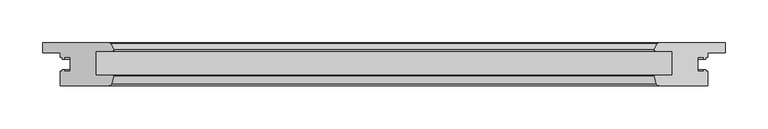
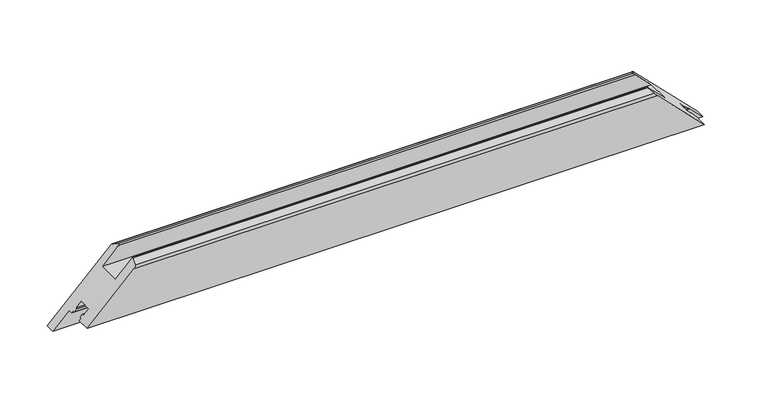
"""IFC4 building model written with IfcOpenShell, lengths in millimetres: proxy geometry, Weiku - Montante - Folha 02.2.01.017 : Weiku - Montante - Folha 02.2.01.017."""

import ifcopenshell
import ifcopenshell.guid

model = None  # the IFC model being written
_history = None  # IfcOwnerHistory: only IFC2X3 demands one
_inside = {}  # id of a spatial element -> (the spatial element, [elements in it])
_under = {}  # id of a project, library or spatial element -> (it, [spatial elements below it])
_declared = {}  # id of a project -> (the project, [libraries it declares])
_typed = {}  # id of a type object -> (the type object, [elements of that type])
_made_of = {}  # id of a material, layer set ... -> (it, [elements and type objects made of it])


def new_model(schema):
    """Start an empty IFC model of exactly this schema.

    Asked for "IFC4X3", IfcOpenShell would pick the latest addendum, in which some entities
    have other attributes; the version numbers below select the first issue.
    IFC2X3 requires an IfcOwnerHistory on every rooted entity: one is made here for all.
    """
    global model, _history
    if schema == "IFC4X3":
        model = ifcopenshell.file(schema_version=(4, 3, 0, 0))
    else:
        model = ifcopenshell.file(schema=schema)
    _inside.clear()
    _under.clear()
    _declared.clear()
    _typed.clear()
    _made_of.clear()
    _history = None
    if model.schema == "IFC2X3":
        org = make("IfcOrganization", Name="unknown")
        user = make(
            "IfcPersonAndOrganization",
            ThePerson=make("IfcPerson", FamilyName="unknown"),
            TheOrganization=org,
        )
        app = make(
            "IfcApplication",
            ApplicationDeveloper=org,
            Version="unknown",
            ApplicationFullName="unknown",
            ApplicationIdentifier="unknown",
        )
        _history = make(
            "IfcOwnerHistory",
            OwningUser=user,
            OwningApplication=app,
            ChangeAction="ADDED",
            CreationDate=0,
        )
    return model


def make(cls, **values):
    """One entity of the class cls with the attributes given. An attribute that is None is left unset."""
    return model.create_entity(
        cls, **{name: value for name, value in values.items() if value is not None}
    )


def rooted(cls, **values):
    """An entity with a GlobalId (a new one), such as an element, a storey or a relation."""
    return make(cls, GlobalId=ifcopenshell.guid.new(), OwnerHistory=_history, **values)


def si_unit(unit_type, name, prefix=None):
    """IfcSIUnit, for example si_unit("LENGTHUNIT", "METRE", prefix="MILLI")."""
    return make("IfcSIUnit", UnitType=unit_type, Prefix=prefix, Name=name)


def assignment(units):
    """IfcUnitAssignment: the units of a project."""
    return None if units is None else make("IfcUnitAssignment", Units=units)


def point(xyz):
    """IfcCartesianPoint."""
    return None if xyz is None else make("IfcCartesianPoint", Coordinates=xyz)


def direction(xyz):
    """IfcDirection."""
    return None if xyz is None else make("IfcDirection", DirectionRatios=xyz)


def frame(location, z_axis=None, x_axis=None):
    """IfcAxis2Placement3D, a coordinate frame: its origin and axes. An axis left out is left unset."""
    return make(
        "IfcAxis2Placement3D",
        Location=point(location),
        Axis=direction(z_axis),
        RefDirection=direction(x_axis),
    )


def origin():
    """The frame at (0, 0, 0) with its axes left unset."""
    return frame((0.0, 0.0, 0.0))


def place(relative_to, where):
    """IfcLocalPlacement: puts the frame where relative to a parent placement (None: the world)."""
    return make(
        "IfcLocalPlacement", PlacementRelTo=relative_to, RelativePlacement=where
    )


def context(
    kind, dimensions, precision=None, world=None, true_north=None, identifier=None
):
    """IfcGeometricRepresentationContext, for example the 3D "Model" context."""
    return make(
        "IfcGeometricRepresentationContext",
        ContextIdentifier=identifier,
        ContextType=kind,
        CoordinateSpaceDimension=dimensions,
        Precision=precision,
        WorldCoordinateSystem=world,
        TrueNorth=true_north,
    )


def project(units=None, contexts=None):
    """IfcProject with its units and contexts."""
    return rooted(
        "IfcProject",
        Name="project",
        RepresentationContexts=contexts,
        UnitsInContext=assignment(units),
    )


def spatial(cls, under=None, at=None, **own):
    """A site, building, storey or space (cls), placed at a placement, below another one or the project."""
    s = rooted(cls, ObjectPlacement=at, **own)
    if under is not None:
        _under.setdefault(under.id(), (under, []))[1].append(s)
    return s


def ellipse_curve(where, semi_axis1, semi_axis2):
    """IfcEllipse in the frame where."""
    return make(
        "IfcEllipse", Position=where, SemiAxis1=semi_axis1, SemiAxis2=semi_axis2
    )


def shape(context_of_items, identifier, shape_type, items):
    """IfcShapeRepresentation: the items that make up one representation, for example the "Body"."""
    return make(
        "IfcShapeRepresentation",
        ContextOfItems=context_of_items,
        RepresentationIdentifier=identifier,
        RepresentationType=shape_type,
        Items=items,
    )


def source(mapping_origin, context_of_items, identifier, shape_type, items):
    """IfcRepresentationMap: a shape defined once, which mapped items show again and again."""
    return make(
        "IfcRepresentationMap",
        MappingOrigin=mapping_origin,
        MappedRepresentation=shape(context_of_items, identifier, shape_type, items),
    )


def transform(
    local_origin,
    x_axis=None,
    y_axis=None,
    z_axis=None,
    scale=None,
    scale2=None,
    scale3=None,
    uniform=True,
):
    """IfcCartesianTransformationOperator3D, or its non-uniform kind. x_axis, y_axis, z_axis: its Axis1, 2, 3."""
    if uniform:
        return make(
            "IfcCartesianTransformationOperator3D",
            Axis1=direction(x_axis),
            Axis2=direction(y_axis),
            LocalOrigin=point(local_origin),
            Scale=scale,
            Axis3=direction(z_axis),
        )
    return make(
        "IfcCartesianTransformationOperator3DnonUniform",
        Axis1=direction(x_axis),
        Axis2=direction(y_axis),
        LocalOrigin=point(local_origin),
        Scale=scale,
        Axis3=direction(z_axis),
        Scale2=scale2,
        Scale3=scale3,
    )


def mapped(mapping_source, mapping_target):
    """IfcMappedItem: shows the shape of a source again, moved by a transform."""
    return make(
        "IfcMappedItem", MappingSource=mapping_source, MappingTarget=mapping_target
    )


def made_of(thing, what):
    """Note that an element or type object is made of a material, layer set ...; save() writes the relation."""
    if what is not None:
        _made_of.setdefault(what.id(), (what, []))[1].append(thing)
    return thing


def element(
    cls,
    number,
    at=None,
    inside=None,
    cuts=None,
    type_object=None,
    material=None,
    context=None,
    identifier="Body",
    shape_type=None,
    held_by="IfcProductDefinitionShape",
    body=None,
    shapes=None,
    **own,
):
    """One element of the class cls, such as IfcWall. Its Tag is "e" and its number.

    at: its placement. inside: the storey or other place that contains it. cuts: it is an
    opening in that element (IfcRelVoidsElement). A single representation is given by context,
    identifier, shape_type and body (its items); several are given by shapes. held_by: the class
    of the entity that holds the representations. save() writes the other relations.
    """
    e = rooted(cls, Tag="e%d" % number, ObjectPlacement=at, **own)
    if body is not None:
        shapes = [shape(context, identifier, shape_type, body)]
    if shapes is not None:
        e.Representation = make(held_by, Representations=shapes)
    if inside is not None:
        _inside.setdefault(inside.id(), (inside, []))[1].append(e)
    if cuts is not None:
        rooted(
            "IfcRelVoidsElement", RelatingBuildingElement=cuts, RelatedOpeningElement=e
        )
    if type_object is not None:
        _typed.setdefault(type_object.id(), (type_object, []))[1].append(e)
    return made_of(e, material)


def aggregate(whole, parts):
    """IfcRelAggregates: a whole, such as a stair, and the parts it consists of."""
    return rooted("IfcRelAggregates", RelatingObject=whole, RelatedObjects=parts)


def save(model, path):
    """Write the relations noted so far, then the file.

    IfcRelAggregates (storeys below a building ...), IfcRelContainedInSpatialStructure (elements
    in a storey), IfcRelDefinesByType, IfcRelAssociatesMaterial and IfcRelDeclares: one each for
    every whole, place, type object, material and project.
    """
    for whole, parts in _under.values():
        aggregate(whole, parts)
    for where, things in _inside.values():
        rooted(
            "IfcRelContainedInSpatialStructure",
            RelatedElements=things,
            RelatingStructure=where,
        )
    for kind, things in _typed.values():
        rooted("IfcRelDefinesByType", RelatedObjects=things, RelatingType=kind)
    for what, things in _made_of.values():
        rooted("IfcRelAssociatesMaterial", RelatedObjects=things, RelatingMaterial=what)
    for by, libraries in _declared.values():
        rooted("IfcRelDeclares", RelatingContext=by, RelatedDefinitions=libraries)
    model.write(path)


def plane_surface(at):
    """IfcPlane: the flat surface through the origin of the frame at, square to its z axis."""
    return make("IfcPlane", Position=at)


def cylinder_surface(at, radius):
    """IfcCylindricalSurface: all points at the distance radius from the z axis of the frame at."""
    return make("IfcCylindricalSurface", Position=at, Radius=radius)


def advanced_brep(points, edges, surfaces, faces):
    """IfcAdvancedBrep: a solid bounded by faces that lie on surfaces and meet in shared edges.

    An edge is (start, end): straight between two places in points (the first is 0);
    or (start, end, curve); or (start, end, curve, False) where it runs against its curve.
    A face is (place in surfaces, loops), or (place, loops, False) where it looks against
    its surface's normal. A loop lists edges by number (the first is 1), with a minus sign
    where the edge is run from its end to its start. The first loop is the outer one.
    """
    corners = [point(p) for p in points]
    vertices = [make("IfcVertexPoint", VertexGeometry=c) for c in corners]
    made = []
    for start, end, *more in edges:
        made.append(
            make(
                "IfcEdgeCurve",
                EdgeStart=vertices[start],
                EdgeEnd=vertices[end],
                EdgeGeometry=more[0] if more else make("IfcPolyline", Points=[corners[start], corners[end]]),
                SameSense=more[1] if len(more) > 1 else True,
            )
        )
    hull = []
    for where, loops, *sense in faces:
        bounds = []
        for j, loop in enumerate(loops):
            ring = [make("IfcOrientedEdge", EdgeElement=made[abs(k) - 1], Orientation=k > 0) for k in loop]
            bounds.append(
                make(
                    "IfcFaceOuterBound" if j == 0 else "IfcFaceBound",
                    Bound=make("IfcEdgeLoop", EdgeList=ring),
                    Orientation=True,
                )
            )
        hull.append(make("IfcAdvancedFace", Bounds=bounds, FaceSurface=surfaces[where], SameSense=sense[0] if sense else True))
    return make("IfcAdvancedBrep", Outer=make("IfcClosedShell", CfsFaces=hull))


def generic_models_55232116(model_context):
    return source(origin(), model_context, "Body", "AdvancedBrep", [
        advanced_brep(
        [(-377.0, -50.0, 20.0), (377.0, -50.0, 20.0), (319.9997332, -50.0, 77.0002668), (-319.9997332, -50.0, 77.0002668), (-397.0, 0.0, 0.0), (-318.9872264, 0.0, 78.0127736), (318.9872264, 0.0, 78.0127736), (397.0, 0.0, 0.0), (-317.1019557, -47.7764571, 79.8980443), (-314.5170371, -38.1294095, 82.4829629), (-315.0, -37.5, 82.0), (-335.5, -37.5, 61.5), (-335.5, -9.5, 61.5), (-315.7134285, -9.5, 81.2865715), (-314.5512796, -7.617411, 82.4487204), (-318.0932657, -0.5518546, 78.9067343), (-397.0, -11.5, 0.0), (-377.0, -11.5, 20.0), (-377.0, -16.9, 20.0), (-374.8, -16.9, 22.2), (-374.8, -18.9, 22.2), (-372.0, -18.9, 25.0), (-372.0, -16.9, 25.0), (-365.5, -16.9, 31.5), (-365.5, -33.1, 31.5), (-372.0, -33.1, 25.0), (-372.0, -31.1, 25.0), (-374.8, -31.1, 22.2), (-374.8, -33.1, 22.2), (-377.0, -33.1, 20.0), (377.0, -33.1, 20.0), (374.8, -33.1, 22.2), (374.8, -31.1, 22.2), (372.0, -31.1, 25.0), (372.0, -33.1, 25.0), (365.5, -33.1, 31.5), (365.5, -16.9, 31.5), (372.0, -16.9, 25.0), (372.0, -18.9, 25.0), (374.8, -18.9, 22.2), (374.8, -16.9, 22.2), (377.0, -16.9, 20.0), (377.0, -11.5, 20.0), (397.0, -11.5, 0.0), (318.0932657, -0.5518546, 78.9067343), (314.5512796, -7.617411, 82.4487204), (315.7134285, -9.5, 81.2865715), (335.5, -9.5, 61.5), (335.5, -37.5, 61.5), (315.0, -37.5, 82.0), (314.5170371, -38.1294095, 82.4829629), (317.1019557, -47.7764571, 79.8980443)],
        [
            (0, 1),
            (1, 2),
            (2, 3),
            (3, 0),
            (4, 5),
            (5, 6),
            (6, 7),
            (7, 4),
            (3, 8, ellipse_curve(frame((-319.9997332, -47.0, 77.0002668), z_axis=(-0.7071067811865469, 0.0, 0.7071067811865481), x_axis=(-0.7071067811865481, 0.0, -0.7071067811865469)), 4.2426407, 3.0)),
            (8, 9),
            (9, 10, ellipse_curve(frame((-315.0, -38.0, 82.0), z_axis=(-0.7071067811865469, 0.0, 0.7071067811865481), x_axis=(-0.7071067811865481, 0.0, -0.7071067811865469)), 0.7071068, 0.5)),
            (10, 11),
            (11, 12),
            (12, 13),
            (13, 14, ellipse_curve(frame((-315.7134285, -8.2, 81.2865715), z_axis=(-0.7071067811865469, 0.0, 0.7071067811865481), x_axis=(-0.7071067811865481, 0.0, -0.7071067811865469)), 1.8384776, 1.3)),
            (14, 15),
            (15, 5, ellipse_curve(frame((-318.9872264, -1.0, 78.0127736), z_axis=(-0.7071067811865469, 0.0, 0.7071067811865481), x_axis=(-0.7071067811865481, 0.0, -0.7071067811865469)), 1.4142136, 1.0)),
            (4, 16),
            (16, 17),
            (17, 18),
            (18, 19),
            (19, 20),
            (20, 21),
            (21, 22),
            (22, 23),
            (23, 24),
            (24, 25),
            (25, 26),
            (26, 27),
            (27, 28),
            (28, 29),
            (29, 0),
            (1, 30),
            (30, 31),
            (31, 32),
            (32, 33),
            (33, 34),
            (34, 35),
            (35, 36),
            (36, 37),
            (37, 38),
            (38, 39),
            (39, 40),
            (40, 41),
            (41, 42),
            (42, 43),
            (43, 7),
            (6, 44, ellipse_curve(frame((318.9872264, -1.0, 78.0127736), z_axis=(0.707106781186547, 0.0, 0.7071067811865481), x_axis=(-0.7071067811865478, 0.0, 0.707106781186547)), 1.4142136, 1.0)),
            (44, 45),
            (45, 46, ellipse_curve(frame((315.7134285, -8.2, 81.2865715), z_axis=(0.707106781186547, 0.0, 0.7071067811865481), x_axis=(-0.7071067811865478, 0.0, 0.707106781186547)), 1.8384776, 1.3)),
            (46, 47),
            (47, 48),
            (48, 49),
            (49, 50, ellipse_curve(frame((315.0, -38.0, 82.0), z_axis=(0.707106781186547, 0.0, 0.7071067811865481), x_axis=(-0.7071067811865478, 0.0, 0.707106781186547)), 0.7071068, 0.5)),
            (50, 51),
            (51, 2, ellipse_curve(frame((319.9997332, -47.0, 77.0002668), z_axis=(0.707106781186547, 0.0, 0.7071067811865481), x_axis=(-0.7071067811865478, 0.0, 0.707106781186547)), 4.2426407, 3.0)),
            (15, 44),
            (14, 45),
            (13, 46),
            (12, 47),
            (11, 48),
            (10, 49),
            (9, 50),
            (8, 51),
            (29, 30),
            (28, 31),
            (27, 32),
            (26, 33),
            (25, 34),
            (24, 35),
            (23, 36),
            (22, 37),
            (21, 38),
            (20, 39),
            (19, 40),
            (18, 41),
            (17, 42),
            (16, 43),
        ],
        [
            plane_surface(frame((-397.0, -50.0, 77.0002668), z_axis=(0.0, -1.0, 0.0), x_axis=(1.0, 0.0, 0.0))),
            plane_surface(frame((-397.0, 0.0, 0.0), z_axis=(0.0, 1.0, 0.0), x_axis=(1.0, 0.0, 0.0))),
            plane_surface(frame((-425.2842712, 0.0, -28.2842712), z_axis=(-0.7071067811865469, 0.0, 0.7071067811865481), x_axis=(0.0, -1.0, 0.0))),
            plane_surface(frame((307.0, 0.0, 90.0), z_axis=(0.707106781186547, 0.0, 0.7071067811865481), x_axis=(0.0, -1.0, 0.0))),
            cylinder_surface(frame((-397.0, -1.0, 78.0127736), z_axis=(-1.0, 0.0, 0.0), x_axis=(0.0, -1.0, 0.0)), 1.0),
            plane_surface(frame((-397.0, -0.5518546, 78.9067343), z_axis=(0.0, 0.4481453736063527, 0.8939606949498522), x_axis=(1.0, 0.0, 0.0))),
            cylinder_surface(frame((-397.0, -8.2, 81.2865715), z_axis=(-1.0, 0.0, 0.0), x_axis=(0.0, -1.0, 0.0)), 1.3),
            plane_surface(frame((-397.0, -9.5, 81.2865715), z_axis=(0.0, -1.0, 0.0), x_axis=(1.0, 0.0, 0.0))),
            plane_surface(frame((-397.0, -9.5, 61.5), z_axis=(0.0, 0.0, 1.0), x_axis=(1.0, 0.0, 0.0))),
            plane_surface(frame((-397.0, -37.5, 61.5), z_axis=(0.0, 1.0, 0.0), x_axis=(1.0, 0.0, 0.0))),
            cylinder_surface(frame((-397.0, -38.0, 82.0), z_axis=(-1.0, 0.0, 0.0), x_axis=(0.0, -1.0, 0.0)), 0.5),
            plane_surface(frame((-397.0, -38.1294095, 82.4829629), z_axis=(0.0, -0.2588190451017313, 0.9659258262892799), x_axis=(1.0, 0.0, 0.0))),
            cylinder_surface(frame((-397.0, -47.0, 77.0002668), z_axis=(-1.0, 0.0, 0.0), x_axis=(0.0, -1.0, 0.0)), 3.0),
            plane_surface(frame((-397.0, -50.0, 20.0), z_axis=(0.0, 0.0, -1.0), x_axis=(1.0, 0.0, 0.0))),
            plane_surface(frame((-397.0, -33.1, 20.0), z_axis=(0.0, 1.0, 0.0), x_axis=(1.0, 0.0, 0.0))),
            plane_surface(frame((-397.0, -33.1, 22.2), z_axis=(0.0, 0.0, -1.0), x_axis=(1.0, 0.0, 0.0))),
            plane_surface(frame((-397.0, -31.1, 22.2), z_axis=(0.0, 1.0, 0.0), x_axis=(1.0, 0.0, 0.0))),
            plane_surface(frame((-397.0, -31.1, 25.0), z_axis=(0.0, 0.0, 1.0), x_axis=(1.0, 0.0, 0.0))),
            plane_surface(frame((-397.0, -33.1, 25.0), z_axis=(0.0, 1.0, 0.0), x_axis=(1.0, 0.0, 0.0))),
            plane_surface(frame((-397.0, -33.1, 31.5), z_axis=(0.0, 0.0, -1.0), x_axis=(1.0, 0.0, 0.0))),
            plane_surface(frame((-397.0, -16.9, 31.5), z_axis=(0.0, -1.0, 0.0), x_axis=(1.0, 0.0, 0.0))),
            plane_surface(frame((-397.0, -16.9, 25.0), z_axis=(0.0, 0.0, 1.0), x_axis=(1.0, 0.0, 0.0))),
            plane_surface(frame((-397.0, -18.9, 25.0), z_axis=(0.0, -1.0, 0.0), x_axis=(1.0, 0.0, 0.0))),
            plane_surface(frame((-397.0, -18.9, 22.2), z_axis=(0.0, 0.0, -1.0), x_axis=(1.0, 0.0, 0.0))),
            plane_surface(frame((-397.0, -16.9, 22.2), z_axis=(0.0, -1.0, 0.0), x_axis=(1.0, 0.0, 0.0))),
            plane_surface(frame((-397.0, -16.9, 20.0), z_axis=(0.0, 0.0, -1.0), x_axis=(1.0, 0.0, 0.0))),
            plane_surface(frame((-397.0, -11.5, 20.0), z_axis=(0.0, -1.0, 0.0), x_axis=(1.0, 0.0, 0.0))),
            plane_surface(frame((-397.0, -11.5, 0.0), z_axis=(0.0, 0.0, -1.0), x_axis=(1.0, 0.0, 0.0))),
        ],
        [
            (0, [[1, 2, 3, 4]]),
            (1, [[5, 6, 7, 8]]),
            (2, [[9, 10, 11, 12, 13, 14, 15, 16, 17, -5, 18, 19, 20, 21, 22, 23, 24, 25, 26, 27, 28, 29, 30, 31, 32, -4]]),
            (3, [[33, 34, 35, 36, 37, 38, 39, 40, 41, 42, 43, 44, 45, 46, 47, -7, 48, 49, 50, 51, 52, 53, 54, 55, 56, -2]]),
            (4, [[57, -48, -6, -17]]),
            (5, [[58, -49, -57, -16]]),
            (6, [[59, -50, -58, -15]]),
            (7, [[60, -51, -59, -14]]),
            (8, [[61, -52, -60, -13]]),
            (9, [[62, -53, -61, -12]]),
            (10, [[63, -54, -62, -11]]),
            (11, [[64, -55, -63, -10]]),
            (12, [[-3, -56, -64, -9]]),
            (13, [[65, -33, -1, -32]]),
            (14, [[66, -34, -65, -31]]),
            (15, [[67, -35, -66, -30]]),
            (16, [[68, -36, -67, -29]]),
            (17, [[69, -37, -68, -28]]),
            (18, [[70, -38, -69, -27]]),
            (19, [[71, -39, -70, -26]]),
            (20, [[72, -40, -71, -25]]),
            (21, [[73, -41, -72, -24]]),
            (22, [[74, -42, -73, -23]]),
            (23, [[75, -43, -74, -22]]),
            (24, [[76, -44, -75, -21]]),
            (25, [[77, -45, -76, -20]]),
            (26, [[-46, -77, -19, 78]]),
            (27, [[-47, -78, -18, -8]]),
        ],
    ),
    ])


if __name__ == "__main__":
    model = new_model("IFC4")
    model_context = context("Model", 3, world=origin())
    ifc_project = project(units=[si_unit("LENGTHUNIT", "METRE", prefix="MILLI")], contexts=[model_context])
    site = spatial("IfcSite", under=ifc_project)
    building = spatial("IfcBuilding", under=site)
    placement = place(None, origin())
    generic_models_shape = generic_models_55232116(model_context)
    element("IfcBuildingElementProxy", 1, Name="Weiku - Montante - Folha 02.2.01.017 : Weiku - Montante - Folha 02.2.01.017", ObjectType="Weiku - Montante - Folha 02.2.01.017 : Weiku - Montante - Folha 02.2.01.017", at=placement, inside=building, context=model_context, shape_type="MappedRepresentation", body=[
        mapped(generic_models_shape, transform((0.0, 0.0, 0.0), x_axis=(1.0, 0.0, 0.0), y_axis=(0.0, 1.0, 0.0), z_axis=(0.0, 0.0, 1.0))),
    ])
    save(model, "model.ifc")
